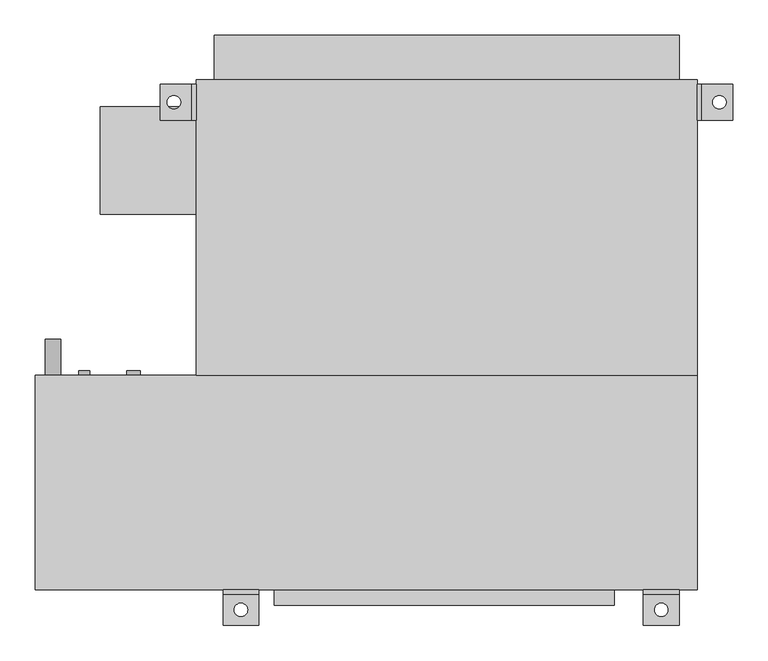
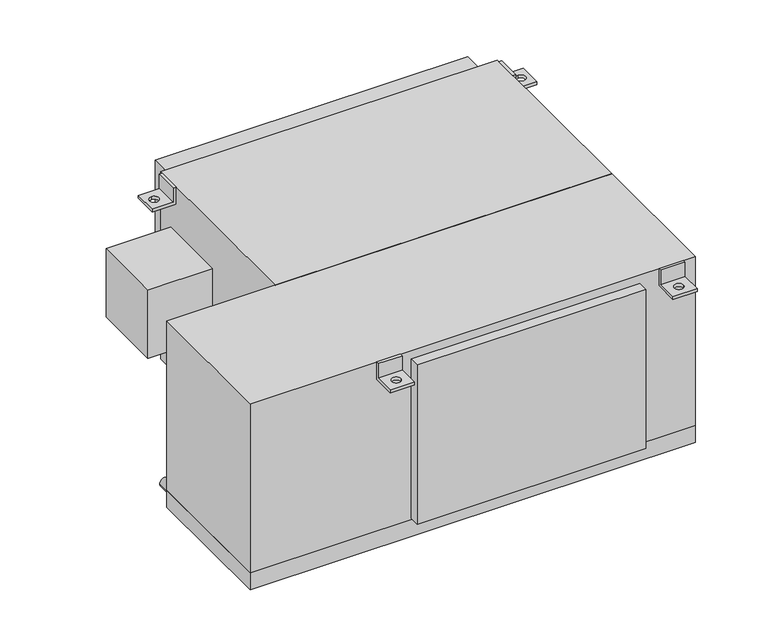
"""IFC4 building model written with IfcOpenShell, lengths in millimetres: proxy geometry, Concealed_High_Capacity_Horizontal_Fan_Coil_Unit_With_Plenum_-_42DCA_-_CARRIER_-_4-Pipe_ValveEnclosure_LH_2022 : Size 08 - 277v/60Hz/1Ph - 6/2 Coil."""

import ifcopenshell
import ifcopenshell.guid

model = None  # the IFC model being written
_history = None  # IfcOwnerHistory: only IFC2X3 demands one
_inside = {}  # id of a spatial element -> (the spatial element, [elements in it])
_under = {}  # id of a project, library or spatial element -> (it, [spatial elements below it])
_declared = {}  # id of a project -> (the project, [libraries it declares])
_typed = {}  # id of a type object -> (the type object, [elements of that type])
_made_of = {}  # id of a material, layer set ... -> (it, [elements and type objects made of it])


def new_model(schema):
    """Start an empty IFC model of exactly this schema.

    Asked for "IFC4X3", IfcOpenShell would pick the latest addendum, in which some entities
    have other attributes; the version numbers below select the first issue.
    IFC2X3 requires an IfcOwnerHistory on every rooted entity: one is made here for all.
    """
    global model, _history
    if schema == "IFC4X3":
        model = ifcopenshell.file(schema_version=(4, 3, 0, 0))
    else:
        model = ifcopenshell.file(schema=schema)
    _inside.clear()
    _under.clear()
    _declared.clear()
    _typed.clear()
    _made_of.clear()
    _history = None
    if model.schema == "IFC2X3":
        org = make("IfcOrganization", Name="unknown")
        user = make(
            "IfcPersonAndOrganization",
            ThePerson=make("IfcPerson", FamilyName="unknown"),
            TheOrganization=org,
        )
        app = make(
            "IfcApplication",
            ApplicationDeveloper=org,
            Version="unknown",
            ApplicationFullName="unknown",
            ApplicationIdentifier="unknown",
        )
        _history = make(
            "IfcOwnerHistory",
            OwningUser=user,
            OwningApplication=app,
            ChangeAction="ADDED",
            CreationDate=0,
        )
    return model


def make(cls, **values):
    """One entity of the class cls with the attributes given. An attribute that is None is left unset."""
    return model.create_entity(
        cls, **{name: value for name, value in values.items() if value is not None}
    )


def rooted(cls, **values):
    """An entity with a GlobalId (a new one), such as an element, a storey or a relation."""
    return make(cls, GlobalId=ifcopenshell.guid.new(), OwnerHistory=_history, **values)


def si_unit(unit_type, name, prefix=None):
    """IfcSIUnit, for example si_unit("LENGTHUNIT", "METRE", prefix="MILLI")."""
    return make("IfcSIUnit", UnitType=unit_type, Prefix=prefix, Name=name)


def assignment(units):
    """IfcUnitAssignment: the units of a project."""
    return None if units is None else make("IfcUnitAssignment", Units=units)


def point(xyz):
    """IfcCartesianPoint."""
    return None if xyz is None else make("IfcCartesianPoint", Coordinates=xyz)


def direction(xyz):
    """IfcDirection."""
    return None if xyz is None else make("IfcDirection", DirectionRatios=xyz)


def frame(location, z_axis=None, x_axis=None):
    """IfcAxis2Placement3D, a coordinate frame: its origin and axes. An axis left out is left unset."""
    return make(
        "IfcAxis2Placement3D",
        Location=point(location),
        Axis=direction(z_axis),
        RefDirection=direction(x_axis),
    )


def frame_2d(location, x_axis=None):
    """IfcAxis2Placement2D, a coordinate frame in the plane: its origin and x axis."""
    return make(
        "IfcAxis2Placement2D", Location=point(location), RefDirection=direction(x_axis)
    )


def origin():
    """The frame at (0, 0, 0) with its axes left unset."""
    return frame((0.0, 0.0, 0.0))


def place(relative_to, where):
    """IfcLocalPlacement: puts the frame where relative to a parent placement (None: the world)."""
    return make(
        "IfcLocalPlacement", PlacementRelTo=relative_to, RelativePlacement=where
    )


def context(
    kind, dimensions, precision=None, world=None, true_north=None, identifier=None
):
    """IfcGeometricRepresentationContext, for example the 3D "Model" context."""
    return make(
        "IfcGeometricRepresentationContext",
        ContextIdentifier=identifier,
        ContextType=kind,
        CoordinateSpaceDimension=dimensions,
        Precision=precision,
        WorldCoordinateSystem=world,
        TrueNorth=true_north,
    )


def project(units=None, contexts=None):
    """IfcProject with its units and contexts."""
    return rooted(
        "IfcProject",
        Name="project",
        RepresentationContexts=contexts,
        UnitsInContext=assignment(units),
    )


def spatial(cls, under=None, at=None, **own):
    """A site, building, storey or space (cls), placed at a placement, below another one or the project."""
    s = rooted(cls, ObjectPlacement=at, **own)
    if under is not None:
        _under.setdefault(under.id(), (under, []))[1].append(s)
    return s


def polyline(points):
    """IfcPolyline through the points."""
    return make("IfcPolyline", Points=[point(p) for p in points])


def circle_curve(where, radius):
    """IfcCircle in the frame where."""
    return make("IfcCircle", Position=where, Radius=radius)


def trimmed(basis, trim1, trim2, sense, master):
    """IfcTrimmedCurve: the piece of a basis curve between two trims."""
    return make(
        "IfcTrimmedCurve",
        BasisCurve=basis,
        Trim1=trim1,
        Trim2=trim2,
        SenseAgreement=sense,
        MasterRepresentation=master,
    )


def segment(curve, same_sense, transition):
    """IfcCompositeCurveSegment."""
    return make(
        "IfcCompositeCurveSegment",
        Transition=transition,
        SameSense=same_sense,
        ParentCurve=curve,
    )


def composite_curve(segments, self_intersect=None):
    """IfcCompositeCurve: segments joined end to end."""
    return make("IfcCompositeCurve", Segments=segments, SelfIntersect=self_intersect)


def outline(outer, holes=None, kind="AREA"):
    """IfcArbitraryClosedProfileDef: a profile drawn as a closed curve; with holes, ...WithVoids."""
    if holes is None:
        return make("IfcArbitraryClosedProfileDef", ProfileType=kind, OuterCurve=outer)
    return make(
        "IfcArbitraryProfileDefWithVoids",
        ProfileType=kind,
        OuterCurve=outer,
        InnerCurves=holes,
    )


def extrude(swept, where, along, depth):
    """IfcExtrudedAreaSolid: the profile swept, set in the frame where, extruded along a direction by depth."""
    return make(
        "IfcExtrudedAreaSolid",
        SweptArea=swept,
        Position=where,
        ExtrudedDirection=direction(along),
        Depth=depth,
    )


def shape(context_of_items, identifier, shape_type, items):
    """IfcShapeRepresentation: the items that make up one representation, for example the "Body"."""
    return make(
        "IfcShapeRepresentation",
        ContextOfItems=context_of_items,
        RepresentationIdentifier=identifier,
        RepresentationType=shape_type,
        Items=items,
    )


def source(mapping_origin, context_of_items, identifier, shape_type, items):
    """IfcRepresentationMap: a shape defined once, which mapped items show again and again."""
    return make(
        "IfcRepresentationMap",
        MappingOrigin=mapping_origin,
        MappedRepresentation=shape(context_of_items, identifier, shape_type, items),
    )


def transform(
    local_origin,
    x_axis=None,
    y_axis=None,
    z_axis=None,
    scale=None,
    scale2=None,
    scale3=None,
    uniform=True,
):
    """IfcCartesianTransformationOperator3D, or its non-uniform kind. x_axis, y_axis, z_axis: its Axis1, 2, 3."""
    if uniform:
        return make(
            "IfcCartesianTransformationOperator3D",
            Axis1=direction(x_axis),
            Axis2=direction(y_axis),
            LocalOrigin=point(local_origin),
            Scale=scale,
            Axis3=direction(z_axis),
        )
    return make(
        "IfcCartesianTransformationOperator3DnonUniform",
        Axis1=direction(x_axis),
        Axis2=direction(y_axis),
        LocalOrigin=point(local_origin),
        Scale=scale,
        Axis3=direction(z_axis),
        Scale2=scale2,
        Scale3=scale3,
    )


def mapped(mapping_source, mapping_target):
    """IfcMappedItem: shows the shape of a source again, moved by a transform."""
    return make(
        "IfcMappedItem", MappingSource=mapping_source, MappingTarget=mapping_target
    )


def made_of(thing, what):
    """Note that an element or type object is made of a material, layer set ...; save() writes the relation."""
    if what is not None:
        _made_of.setdefault(what.id(), (what, []))[1].append(thing)
    return thing


def element(
    cls,
    number,
    at=None,
    inside=None,
    cuts=None,
    type_object=None,
    material=None,
    context=None,
    identifier="Body",
    shape_type=None,
    held_by="IfcProductDefinitionShape",
    body=None,
    shapes=None,
    **own,
):
    """One element of the class cls, such as IfcWall. Its Tag is "e" and its number.

    at: its placement. inside: the storey or other place that contains it. cuts: it is an
    opening in that element (IfcRelVoidsElement). A single representation is given by context,
    identifier, shape_type and body (its items); several are given by shapes. held_by: the class
    of the entity that holds the representations. save() writes the other relations.
    """
    e = rooted(cls, Tag="e%d" % number, ObjectPlacement=at, **own)
    if body is not None:
        shapes = [shape(context, identifier, shape_type, body)]
    if shapes is not None:
        e.Representation = make(held_by, Representations=shapes)
    if inside is not None:
        _inside.setdefault(inside.id(), (inside, []))[1].append(e)
    if cuts is not None:
        rooted(
            "IfcRelVoidsElement", RelatingBuildingElement=cuts, RelatedOpeningElement=e
        )
    if type_object is not None:
        _typed.setdefault(type_object.id(), (type_object, []))[1].append(e)
    return made_of(e, material)


def aggregate(whole, parts):
    """IfcRelAggregates: a whole, such as a stair, and the parts it consists of."""
    return rooted("IfcRelAggregates", RelatingObject=whole, RelatedObjects=parts)


def save(model, path):
    """Write the relations noted so far, then the file.

    IfcRelAggregates (storeys below a building ...), IfcRelContainedInSpatialStructure (elements
    in a storey), IfcRelDefinesByType, IfcRelAssociatesMaterial and IfcRelDeclares: one each for
    every whole, place, type object, material and project.
    """
    for whole, parts in _under.values():
        aggregate(whole, parts)
    for where, things in _inside.values():
        rooted(
            "IfcRelContainedInSpatialStructure",
            RelatedElements=things,
            RelatingStructure=where,
        )
    for kind, things in _typed.values():
        rooted("IfcRelDefinesByType", RelatedObjects=things, RelatingType=kind)
    for what, things in _made_of.values():
        rooted("IfcRelAssociatesMaterial", RelatedObjects=things, RelatingMaterial=what)
    for by, libraries in _declared.values():
        rooted("IfcRelDeclares", RelatingContext=by, RelatedDefinitions=libraries)
    model.write(path)


def plane_surface(at):
    """IfcPlane: the flat surface through the origin of the frame at, square to its z axis."""
    return make("IfcPlane", Position=at)


def revolved_surface(curve, axis_point, axis_direction):
    """IfcSurfaceOfRevolution: the curve turned about the line through axis_point along axis_direction."""
    return make(
        "IfcSurfaceOfRevolution",
        SweptCurve=make("IfcArbitraryOpenProfileDef", ProfileType="CURVE", Curve=curve),
        AxisPosition=make("IfcAxis1Placement", Location=point(axis_point), Axis=direction(axis_direction)),
    )


def advanced_brep(points, edges, surfaces, faces):
    """IfcAdvancedBrep: a solid bounded by faces that lie on surfaces and meet in shared edges.

    An edge is (start, end): straight between two places in points (the first is 0);
    or (start, end, curve); or (start, end, curve, False) where it runs against its curve.
    A face is (place in surfaces, loops), or (place, loops, False) where it looks against
    its surface's normal. A loop lists edges by number (the first is 1), with a minus sign
    where the edge is run from its end to its start. The first loop is the outer one.
    """
    corners = [point(p) for p in points]
    vertices = [make("IfcVertexPoint", VertexGeometry=c) for c in corners]
    made = []
    for start, end, *more in edges:
        made.append(
            make(
                "IfcEdgeCurve",
                EdgeStart=vertices[start],
                EdgeEnd=vertices[end],
                EdgeGeometry=more[0] if more else make("IfcPolyline", Points=[corners[start], corners[end]]),
                SameSense=more[1] if len(more) > 1 else True,
            )
        )
    hull = []
    for where, loops, *sense in faces:
        bounds = []
        for j, loop in enumerate(loops):
            ring = [make("IfcOrientedEdge", EdgeElement=made[abs(k) - 1], Orientation=k > 0) for k in loop]
            bounds.append(
                make(
                    "IfcFaceOuterBound" if j == 0 else "IfcFaceBound",
                    Bound=make("IfcEdgeLoop", EdgeList=ring),
                    Orientation=True,
                )
            )
        hull.append(make("IfcAdvancedFace", Bounds=bounds, FaceSurface=surfaces[where], SameSense=sense[0] if sense else True))
    return make("IfcAdvancedBrep", Outer=make("IfcClosedShell", CfsFaces=hull))


def mechanical_equipment_e26db2fa(model_context):
    return source(origin(), model_context, "Body", "SolidModel", [
        advanced_brep(
        [(482.6, -390.525, 0.0), (482.6, -396.875, 0.0), (482.6, -396.875, -31.75), (482.6, -441.325, -31.75), (482.6, -441.325, -38.1), (482.6, -390.525, -38.1), (431.8, -390.525, 0.0), (431.8, -390.525, -38.1), (431.8, -441.325, -38.1), (431.8, -441.325, -31.75), (431.8, -396.875, -31.75), (431.8, -396.875, 0.0), (447.675, -419.1, -31.75), (466.725, -419.1, -31.75), (466.725, -419.1, -38.1), (447.675, -419.1, -38.1)],
        [
            (0, 1),
            (1, 2),
            (2, 3),
            (3, 4),
            (4, 5),
            (5, 0),
            (6, 7),
            (7, 8),
            (8, 9),
            (9, 10),
            (10, 11),
            (11, 6),
            (0, 6),
            (11, 1),
            (10, 2),
            (9, 3),
            (12, 13, circle_curve(frame((457.2, -419.1, -31.75), z_axis=(0.0, 0.0, -1.0), x_axis=(1.0, 0.0, 0.0)), 9.525)),
            (13, 12, circle_curve(frame((457.2, -419.1, -31.75), z_axis=(0.0, 0.0, -1.0), x_axis=(1.0, 0.0, 0.0)), 9.525)),
            (8, 4),
            (7, 5),
            (14, 15, circle_curve(frame((457.2, -419.1, -38.1), z_axis=(0.0, 0.0, 1.0), x_axis=(1.0, 0.0, 0.0)), 9.525)),
            (15, 14, circle_curve(frame((457.2, -419.1, -38.1), z_axis=(0.0, 0.0, 1.0), x_axis=(1.0, 0.0, 0.0)), 9.525)),
            (12, 15),
            (14, 13),
        ],
        [
            plane_surface(frame((482.6, -396.875, 0.0), z_axis=(1.0, 0.0, 0.0), x_axis=(0.0, -1.0, 0.0))),
            plane_surface(frame((431.8, -396.875, 0.0), z_axis=(-1.0, 0.0, 0.0), x_axis=(0.0, 1.0, 0.0))),
            plane_surface(frame((482.6, -390.525, 0.0), z_axis=(0.0, 0.0, 1.0), x_axis=(-1.0, 0.0, 0.0))),
            plane_surface(frame((482.6, -396.875, 0.0), z_axis=(0.0, -1.0, 0.0), x_axis=(-1.0, 0.0, 0.0))),
            plane_surface(frame((482.6, -396.875, -31.75), z_axis=(0.0, 0.0, 1.0), x_axis=(-1.0, 0.0, 0.0))),
            plane_surface(frame((482.6, -441.325, -31.75), z_axis=(0.0, -1.0, 0.0), x_axis=(-1.0, 0.0, 0.0))),
            plane_surface(frame((482.6, -441.325, -38.1), z_axis=(0.0, 0.0, -1.0), x_axis=(-1.0, 0.0, 0.0))),
            plane_surface(frame((482.6, -390.525, -38.1), z_axis=(0.0, 1.0, 0.0), x_axis=(-1.0, 0.0, 0.0))),
            revolved_surface(polyline([(466.72499999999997, -419.1, -38.1), (466.72499999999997, -419.1, -31.75)]), (457.2, -419.1, -31.75), (0.0, 0.0, -1.0)),
        ],
        [
            (0, [[1, 2, 3, 4, 5, 6]]),
            (1, [[7, 8, 9, 10, 11, 12]]),
            (2, [[-1, 13, -12, 14]]),
            (3, [[-2, -14, -11, 15]]),
            (4, [[-3, -15, -10, 16], [17, 18]]),
            (5, [[-4, -16, -9, 19]]),
            (6, [[-5, -19, -8, 20], [21, 22]]),
            (7, [[-6, -20, -7, -13]]),
            (8, [[23, -21, 24, -17]]),
            (8, [[-23, -18, -24, -22]]),
        ],
    ),
        advanced_brep(
        [(-114.3, -390.525, -38.1), (-114.3, -390.525, 0.0), (-114.3, -396.875, 0.0), (-114.3, -396.875, -31.75), (-114.3, -441.325, -31.75), (-114.3, -441.325, -38.1), (-165.1, -390.525, -38.1), (-165.1, -441.325, -38.1), (-165.1, -441.325, -31.75), (-165.1, -396.875, -31.75), (-165.1, -396.875, 0.0), (-165.1, -390.525, 0.0), (-149.225, -419.1, -31.75), (-130.175, -419.1, -31.75), (-130.175, -419.1, -38.1), (-149.225, -419.1, -38.1)],
        [
            (0, 1),
            (1, 2),
            (2, 3),
            (3, 4),
            (4, 5),
            (5, 0),
            (6, 7),
            (7, 8),
            (8, 9),
            (9, 10),
            (10, 11),
            (11, 6),
            (0, 6),
            (11, 1),
            (10, 2),
            (9, 3),
            (8, 4),
            (12, 13, circle_curve(frame((-139.7, -419.1, -31.75), z_axis=(0.0, 0.0, -1.0), x_axis=(1.0, 0.0, 0.0)), 9.525)),
            (13, 12, circle_curve(frame((-139.7, -419.1, -31.75), z_axis=(0.0, 0.0, -1.0), x_axis=(1.0, 0.0, 0.0)), 9.525)),
            (7, 5),
            (14, 15, circle_curve(frame((-139.7, -419.1, -38.1), z_axis=(0.0, 0.0, 1.0), x_axis=(1.0, 0.0, 0.0)), 9.525)),
            (15, 14, circle_curve(frame((-139.7, -419.1, -38.1), z_axis=(0.0, 0.0, 1.0), x_axis=(1.0, 0.0, 0.0)), 9.525)),
            (12, 15),
            (14, 13),
        ],
        [
            plane_surface(frame((-114.3, -390.525, -38.1), z_axis=(1.0, 0.0, 0.0), x_axis=(0.0, 0.0, 1.0))),
            plane_surface(frame((-165.1, -390.525, -38.1), z_axis=(-1.0, 0.0, 0.0), x_axis=(0.0, 0.0, -1.0))),
            plane_surface(frame((-114.3, -390.525, -38.1), z_axis=(0.0, 1.0, 0.0), x_axis=(-1.0, 0.0, 0.0))),
            plane_surface(frame((-114.3, -390.525, 0.0), z_axis=(0.0, 0.0, 1.0), x_axis=(-1.0, 0.0, 0.0))),
            plane_surface(frame((-114.3, -396.875, 0.0), z_axis=(0.0, -1.0, 0.0), x_axis=(-1.0, 0.0, 0.0))),
            plane_surface(frame((-114.3, -396.875, -31.75), z_axis=(0.0, 0.0, 1.0), x_axis=(-1.0, 0.0, 0.0))),
            plane_surface(frame((-114.3, -441.325, -31.75), z_axis=(0.0, -1.0, 0.0), x_axis=(-1.0, 0.0, 0.0))),
            plane_surface(frame((-114.3, -441.325, -38.1), z_axis=(0.0, 0.0, -1.0), x_axis=(-1.0, 0.0, 0.0))),
            revolved_surface(polyline([(-130.17499999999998, -419.1, -38.1), (-130.17499999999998, -419.1, -31.75)]), (-139.7, -419.1, -31.75), (0.0, 0.0, -1.0)),
        ],
        [
            (0, [[1, 2, 3, 4, 5, 6]]),
            (1, [[7, 8, 9, 10, 11, 12]]),
            (2, [[-1, 13, -12, 14]]),
            (3, [[-2, -14, -11, 15]]),
            (4, [[-3, -15, -10, 16]]),
            (5, [[-4, -16, -9, 17], [18, 19]]),
            (6, [[-5, -17, -8, 20]]),
            (7, [[-6, -20, -7, -13], [21, 22]]),
            (8, [[23, -21, 24, -18]]),
            (8, [[-23, -19, -24, -22]]),
        ],
    ),
        extrude(outline(composite_curve([segment(trimmed(circle_curve(frame_2d((-400.05, -406.4)), 11.1125), [point((-400.05, -417.5125))], [point((-400.05, -395.2875))], False, "CARTESIAN"), True, "CONTINUOUS"), segment(trimmed(circle_curve(frame_2d((-400.05, -406.4)), 11.1125), [point((-400.05, -395.2875))], [point((-400.05, -417.5125))], False, "CARTESIAN"), True, "CONTINUOUS")], self_intersect=False)), frame((0.0, -85.725, 0.0), z_axis=(0.0, 1.0, 0.0), x_axis=(0.0, 0.0, 1.0)), (0.0, 0.0, 1.0), 50.8),
        extrude(outline(composite_curve([segment(trimmed(circle_curve(frame_2d((-44.45, -292.1)), 9.525), [point((-44.45, -301.625))], [point((-44.45, -282.575))], False, "CARTESIAN"), True, "CONTINUOUS"), segment(trimmed(circle_curve(frame_2d((-44.45, -292.1)), 9.525), [point((-44.45, -282.575))], [point((-44.45, -301.625))], False, "CARTESIAN"), True, "CONTINUOUS")], self_intersect=False)), frame((0.0, -85.725, 0.0), z_axis=(0.0, 1.0, 0.0), x_axis=(0.0, 0.0, 1.0)), (0.0, 0.0, 1.0), 6.35),
        extrude(outline(composite_curve([segment(trimmed(circle_curve(frame_2d((-276.225, -292.1)), 9.525), [point((-276.225, -301.625))], [point((-276.225, -282.575))], False, "CARTESIAN"), True, "CONTINUOUS"), segment(trimmed(circle_curve(frame_2d((-276.225, -292.1)), 9.525), [point((-276.225, -282.575))], [point((-276.225, -301.625))], False, "CARTESIAN"), True, "CONTINUOUS")], self_intersect=False)), frame((0.0, -85.725, 0.0), z_axis=(0.0, 1.0, 0.0), x_axis=(0.0, 0.0, 1.0)), (0.0, 0.0, 1.0), 6.35),
        extrude(outline(composite_curve([segment(trimmed(circle_curve(frame_2d((-69.85, -361.95)), 7.9375), [point((-69.85, -369.8875))], [point((-69.85, -354.0125))], False, "CARTESIAN"), True, "CONTINUOUS"), segment(trimmed(circle_curve(frame_2d((-69.85, -361.95)), 7.9375), [point((-69.85, -354.0125))], [point((-69.85, -369.8875))], False, "CARTESIAN"), True, "CONTINUOUS")], self_intersect=False)), frame((0.0, -85.725, 0.0), z_axis=(0.0, 1.0, 0.0), x_axis=(0.0, 0.0, 1.0)), (0.0, 0.0, 1.0), 6.35),
        extrude(outline(composite_curve([segment(trimmed(circle_curve(frame_2d((-285.75, -361.95)), 7.9375), [point((-285.75, -369.8875))], [point((-285.75, -354.0125))], False, "CARTESIAN"), True, "CONTINUOUS"), segment(trimmed(circle_curve(frame_2d((-285.75, -361.95)), 7.9375), [point((-285.75, -354.0125))], [point((-285.75, -369.8875))], False, "CARTESIAN"), True, "CONTINUOUS")], self_intersect=False)), frame((0.0, -85.725, 0.0), z_axis=(0.0, 1.0, 0.0), x_axis=(0.0, 0.0, 1.0)), (0.0, 0.0, 1.0), 6.35),
        advanced_brep(
        [(-203.2, 327.025, -38.1), (-254.0, 327.025, -38.1), (-254.0, 327.025, -31.75), (-209.55, 327.025, -31.75), (-209.55, 327.025, 0.0), (-203.2, 327.025, 0.0), (-203.2, 276.225, -38.1), (-203.2, 276.225, 0.0), (-209.55, 276.225, 0.0), (-209.55, 276.225, -31.75), (-254.0, 276.225, -31.75), (-254.0, 276.225, -38.1), (-234.95, 292.1, -38.1), (-234.95, 311.15, -38.1), (-234.95, 311.15, -31.75), (-234.95, 292.1, -31.75)],
        [
            (0, 1),
            (1, 2),
            (2, 3),
            (3, 4),
            (4, 5),
            (5, 0),
            (6, 7),
            (7, 8),
            (8, 9),
            (9, 10),
            (10, 11),
            (11, 6),
            (0, 6),
            (11, 1),
            (12, 13, circle_curve(frame((-234.95, 301.625, -38.1), z_axis=(0.0, 0.0, 1.0), x_axis=(0.0, -1.0, 0.0)), 9.525)),
            (13, 12, circle_curve(frame((-234.95, 301.625, -38.1), z_axis=(0.0, 0.0, 1.0), x_axis=(0.0, -1.0, 0.0)), 9.525)),
            (10, 2),
            (9, 3),
            (14, 15, circle_curve(frame((-234.95, 301.625, -31.75), z_axis=(0.0, 0.0, -1.0), x_axis=(0.0, -1.0, 0.0)), 9.525)),
            (15, 14, circle_curve(frame((-234.95, 301.625, -31.75), z_axis=(0.0, 0.0, -1.0), x_axis=(0.0, -1.0, 0.0)), 9.525)),
            (8, 4),
            (7, 5),
            (14, 13),
            (12, 15),
        ],
        [
            plane_surface(frame((-203.2, 327.025, -38.1), z_axis=(0.0, 1.0, 0.0), x_axis=(-1.0, 0.0, 0.0))),
            plane_surface(frame((-203.2, 276.225, -38.1), z_axis=(0.0, -1.0, 0.0), x_axis=(1.0, 0.0, 0.0))),
            plane_surface(frame((-203.2, 327.025, -38.1), z_axis=(0.0, 0.0, -1.0), x_axis=(0.0, -1.0, 0.0))),
            plane_surface(frame((-254.0, 327.025, -38.1), z_axis=(-1.0, 0.0, 0.0), x_axis=(0.0, -1.0, 0.0))),
            plane_surface(frame((-254.0, 327.025, -31.75), z_axis=(0.0, 0.0, 1.0), x_axis=(0.0, -1.0, 0.0))),
            plane_surface(frame((-209.55, 327.025, -31.75), z_axis=(-1.0, 0.0, 0.0), x_axis=(0.0, -1.0, 0.0))),
            plane_surface(frame((-209.55, 327.025, 0.0), z_axis=(0.0, 0.0, 1.0), x_axis=(0.0, -1.0, 0.0))),
            plane_surface(frame((-203.2, 327.025, 0.0), z_axis=(1.0, 0.0, 0.0), x_axis=(0.0, -1.0, 0.0))),
            revolved_surface(polyline([(-234.95, 292.1, -38.1), (-234.95, 292.1, -31.75)]), (-234.95, 301.625, -31.75), (0.0, 0.0, -1.0)),
        ],
        [
            (0, [[1, 2, 3, 4, 5, 6]]),
            (1, [[7, 8, 9, 10, 11, 12]]),
            (2, [[-1, 13, -12, 14], [15, 16]]),
            (3, [[-2, -14, -11, 17]]),
            (4, [[-3, -17, -10, 18], [19, 20]]),
            (5, [[-4, -18, -9, 21]]),
            (6, [[-5, -21, -8, 22]]),
            (7, [[-6, -22, -7, -13]]),
            (8, [[23, -15, 24, -19]]),
            (8, [[-23, -20, -24, -16]]),
        ],
    ),
        advanced_brep(
        [(508.0, 327.025, -38.1), (508.0, 327.025, 0.0), (514.35, 327.025, 0.0), (514.35, 327.025, -31.75), (558.8, 327.025, -31.75), (558.8, 327.025, -38.1), (508.0, 276.225, -38.1), (558.8, 276.225, -38.1), (558.8, 276.225, -31.75), (514.35, 276.225, -31.75), (514.35, 276.225, 0.0), (508.0, 276.225, 0.0), (539.75, 311.15, -31.75), (539.75, 292.1, -31.75), (539.75, 292.1, -38.1), (539.75, 311.15, -38.1)],
        [
            (0, 1),
            (1, 2),
            (2, 3),
            (3, 4),
            (4, 5),
            (5, 0),
            (6, 7),
            (7, 8),
            (8, 9),
            (9, 10),
            (10, 11),
            (11, 6),
            (0, 6),
            (11, 1),
            (10, 2),
            (9, 3),
            (8, 4),
            (12, 13, circle_curve(frame((539.75, 301.625, -31.75), z_axis=(0.0, 0.0, -1.0), x_axis=(0.0, -1.0, 0.0)), 9.525)),
            (13, 12, circle_curve(frame((539.75, 301.625, -31.75), z_axis=(0.0, 0.0, -1.0), x_axis=(0.0, -1.0, 0.0)), 9.525)),
            (7, 5),
            (14, 15, circle_curve(frame((539.75, 301.625, -38.1), z_axis=(0.0, 0.0, 1.0), x_axis=(0.0, -1.0, 0.0)), 9.525)),
            (15, 14, circle_curve(frame((539.75, 301.625, -38.1), z_axis=(0.0, 0.0, 1.0), x_axis=(0.0, -1.0, 0.0)), 9.525)),
            (12, 15),
            (14, 13),
        ],
        [
            plane_surface(frame((-203.2, 327.025, -38.1), z_axis=(0.0, 1.0, 0.0), x_axis=(-1.0, 0.0, 0.0))),
            plane_surface(frame((-203.2, 276.225, -38.1), z_axis=(0.0, -1.0, 0.0), x_axis=(1.0, 0.0, 0.0))),
            plane_surface(frame((508.0, 327.025, -38.1), z_axis=(-1.0, 0.0, 0.0), x_axis=(0.0, -1.0, 0.0))),
            plane_surface(frame((508.0, 327.025, 0.0), z_axis=(0.0, 0.0, 1.0), x_axis=(0.0, -1.0, 0.0))),
            plane_surface(frame((514.35, 327.025, 0.0), z_axis=(1.0, 0.0, 0.0), x_axis=(0.0, -1.0, 0.0))),
            plane_surface(frame((514.35, 327.025, -31.75), z_axis=(0.0, 0.0, 1.0), x_axis=(0.0, -1.0, 0.0))),
            plane_surface(frame((558.8, 327.025, -31.75), z_axis=(1.0, 0.0, 0.0), x_axis=(0.0, -1.0, 0.0))),
            plane_surface(frame((558.8, 327.025, -38.1), z_axis=(0.0, 0.0, -1.0), x_axis=(0.0, -1.0, 0.0))),
            revolved_surface(polyline([(539.75, 292.1, -38.1), (539.75, 292.1, -31.75)]), (539.75, 301.625, -31.75), (0.0, 0.0, -1.0)),
        ],
        [
            (0, [[1, 2, 3, 4, 5, 6]]),
            (1, [[7, 8, 9, 10, 11, 12]]),
            (2, [[-1, 13, -12, 14]]),
            (3, [[-2, -14, -11, 15]]),
            (4, [[-3, -15, -10, 16]]),
            (5, [[-4, -16, -9, 17], [18, 19]]),
            (6, [[-5, -17, -8, 20]]),
            (7, [[-6, -20, -7, -13], [21, 22]]),
            (8, [[23, -21, 24, -18]]),
            (8, [[-23, -19, -24, -22]]),
        ],
    ),
        extrude(outline(polyline([(-177.8, 396.875), (482.6, 396.875), (482.6, 333.375), (-177.8, 333.375), (-177.8, 396.875)])), frame((0.0, 0.0, -377.825), z_axis=(0.0, 0.0, 1.0), x_axis=(1.0, 0.0, 0.0)), (0.0, 0.0, 1.0), 355.6),
        extrude(outline(polyline([(-339.725, 142.875), (-339.725, 295.275), (-203.2, 295.275), (-203.2, 142.875), (-339.725, 142.875)])), frame((0.0, 0.0, -254.0), z_axis=(0.0, 0.0, 1.0), x_axis=(1.0, 0.0, 0.0)), (0.0, 0.0, 1.0), 152.4),
        extrude(outline(polyline([(390.525, -412.75), (-92.075, -412.75), (-92.075, -390.525), (390.525, -390.525), (390.525, -412.75)])), frame((0.0, 0.0, -374.65), z_axis=(0.0, 0.0, 1.0), x_axis=(1.0, 0.0, 0.0)), (0.0, 0.0, 1.0), 355.6),
        extrude(outline(polyline([(508.0, -85.725), (-203.2, -85.725), (-203.2, 333.375), (508.0, 333.375), (508.0, -85.725)])), frame((0.0, 0.0, -419.1), z_axis=(0.0, 0.0, 1.0), x_axis=(1.0, 0.0, 0.0)), (0.0, 0.0, 1.0), 419.1),
        extrude(outline(polyline([(508.0, -85.725), (508.0, -390.525), (-431.8, -390.525), (-431.8, -85.725), (508.0, -85.725)])), frame((0.0, 0.0, -377.825), z_axis=(0.0, 0.0, 1.0), x_axis=(1.0, 0.0, 0.0)), (0.0, 0.0, 1.0), 377.825),
        extrude(outline(polyline([(508.0, -85.725), (508.0, -390.525), (-431.8, -390.525), (-431.8, -85.725), (508.0, -85.725)])), frame((0.0, 0.0, -415.925), z_axis=(0.0, 0.0, 1.0), x_axis=(1.0, 0.0, 0.0)), (0.0, 0.0, 1.0), 38.1),
    ])


if __name__ == "__main__":
    model = new_model("IFC4")
    model_context = context("Model", 3, world=origin())
    ifc_project = project(units=[si_unit("LENGTHUNIT", "METRE", prefix="MILLI")], contexts=[model_context])
    site = spatial("IfcSite", under=ifc_project)
    building = spatial("IfcBuilding", under=site)
    placement = place(None, origin())
    mechanical_equipment_shape = mechanical_equipment_e26db2fa(model_context)
    element("IfcBuildingElementProxy", 1, Name="Concealed_High_Capacity_Horizontal_Fan_Coil_Unit_With_Plenum_-_42DCA_-_CARRIER_-_4-Pipe_ValveEnclosure_LH_2022 : Size 08 - 277v/60Hz/1Ph - 6/2 Coil", ObjectType="Concealed_High_Capacity_Horizontal_Fan_Coil_Unit_With_Plenum_-_42DCA_-_CARRIER_-_4-Pipe_ValveEnclosure_LH_2022 : Size 08 - 277v/60Hz/1Ph - 6/2 Coil", at=placement, inside=building, context=model_context, shape_type="MappedRepresentation", body=[
        mapped(mechanical_equipment_shape, transform((0.0, 0.0, 0.0), x_axis=(1.0, 0.0, 0.0), y_axis=(0.0, 1.0, 0.0), z_axis=(0.0, 0.0, 1.0))),
    ])
    save(model, "model.ifc")
